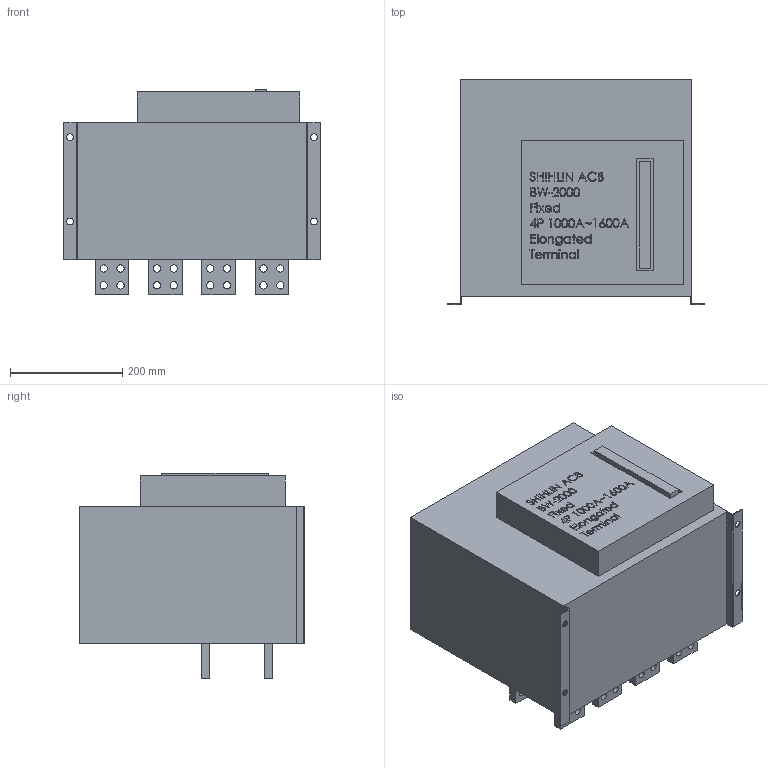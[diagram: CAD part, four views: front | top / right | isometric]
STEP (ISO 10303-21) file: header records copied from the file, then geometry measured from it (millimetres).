
FILE_DESCRIPTION (( 'STEP AP203' ), '1' );
FILE_NAME ('BW-2000-Fixed-4P-1000-1600A-Elongated Terminal.STEP', '2020-04-09T10:56:46', ( '' ), ( '' ), 'SwSTEP 2.0', 'SolidWorks 2017', '' );
FILE_SCHEMA (( 'CONFIG_CONTROL_DESIGN' ));
Products named in the file (1): BW-2000-Fixed-4P-1000-1600A-Elongated Terminal
Bounding box: 457 x 402 x 367 mm (x, y, z)
Volume: 43597365.7 mm3; surface area: 936408.9 mm2
Topology: 3 solids, 3 shells, 798 faces, 2100 edges, 1400 vertices
Faces by surface type: plane 459, bspline 265, cylinder 74
Entity records: 39731 total; most frequent: CARTESIAN_POINT 21436, ORIENTED_EDGE 4200, DIRECTION 2786, EDGE_CURVE 2100, VECTOR 1422, LINE 1422, VERTEX_POINT 1400, EDGE_LOOP 962
